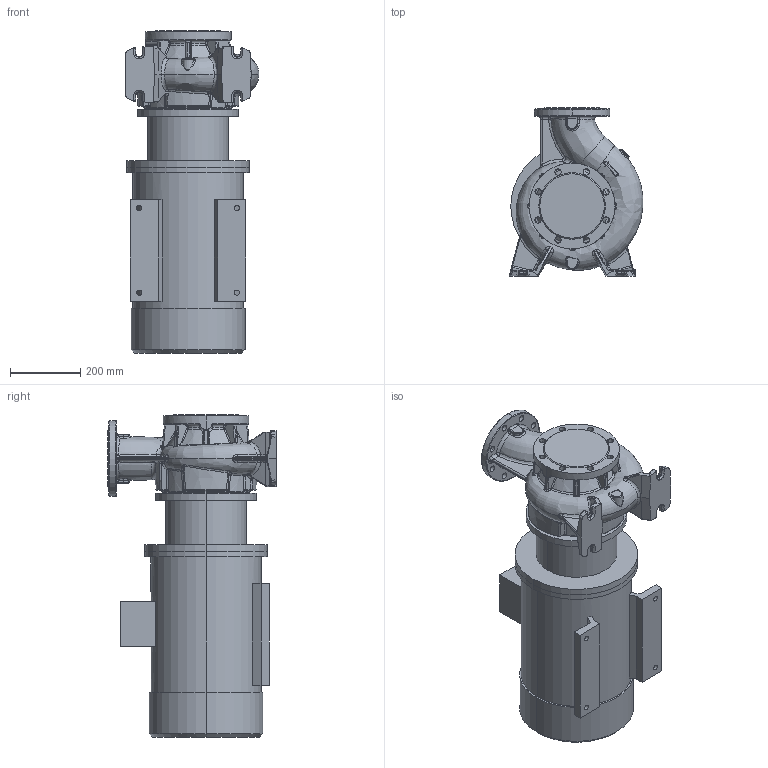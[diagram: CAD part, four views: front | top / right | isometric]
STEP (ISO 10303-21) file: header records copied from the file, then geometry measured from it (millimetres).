
FILE_DESCRIPTION (( 'STEP AP214' ), '1' );
FILE_NAME ('KRM 125-100-160-2-22.STEP', '2026-04-20T13:27:44', ( '' ), ( '' ), 'SwSTEP 2.0', 'SolidWorks 2016', '' );
FILE_SCHEMA (( 'AUTOMOTIVE_DESIGN' ));
Length unit declared in the file: millimetre
Products named in the file (1): KRM 125-100-160-2-22
Bounding box: 382.23 x 480 x 920.8 mm (x, y, z)
Volume: 71712766 mm3; surface area: 2095581.2 mm2
Topology: 4 solids, 4 shells, 1119 faces, 2680 edges, 1555 vertices
Faces by surface type: bspline 476, cylinder 261, plane 176, torus 101, cone 58, sphere 47
Entity records: 87940 total; most frequent: CARTESIAN_POINT 53312, ORIENTED_EDGE 5296, DIRECTION 3916, EDGE_CURVE 2648, AXIS2_PLACEMENT_3D 1690, VERTEX_POINT 1555, EDGE_LOOP 1177, UNCERTAINTY_MEASURE_WITH_UNIT 1125
